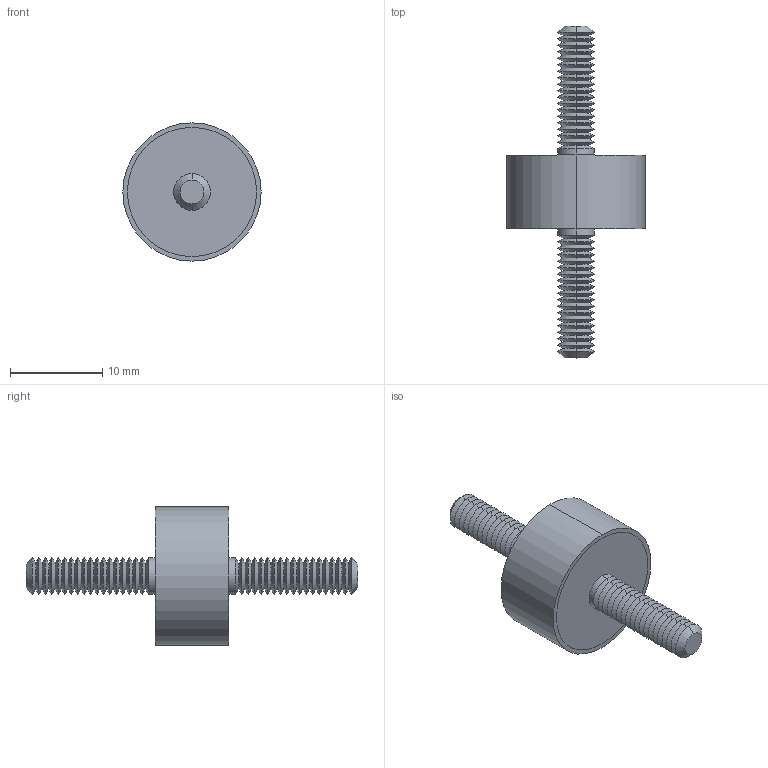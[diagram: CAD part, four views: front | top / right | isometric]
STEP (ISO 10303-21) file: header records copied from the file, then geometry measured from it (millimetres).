
FILE_DESCRIPTION (( 'STEP AP203' ), '1' );
FILE_NAME ('61040.W0151.step', '2019-09-24T22:23:35', ( '' ), ( '' ), 'SwSTEP 2.0', 'SolidWorks 2017', '' );
FILE_SCHEMA (( 'CONFIG_CONTROL_DESIGN' ));
Length unit declared in the file: millimetre
Products named in the file (4): Part2_61040.W0151; Part3_61040.W0151; 61040.W0151; Part1_61040.W0151
Assembly tree (3 placements, depth 2):
  61040.W0151
    Part1_61040.W0151
    Part2_61040.W0151
    Part3_61040.W0151
Bounding box: 15 x 36 x 15 mm (x, y, z)
Volume: 1673.8 mm3; surface area: 1995.1 mm2
Topology: 3 solids, 3 shells, 172 faces, 338 edges, 176 vertices
Faces by surface type: cone 148, cylinder 14, plane 10
Entity records: 4708 total; most frequent: DIRECTION 870, CARTESIAN_POINT 692, ORIENTED_EDGE 676, AXIS2_PLACEMENT_3D 354, EDGE_CURVE 338, EDGE_LOOP 176, VERTEX_POINT 176, CIRCLE 176
